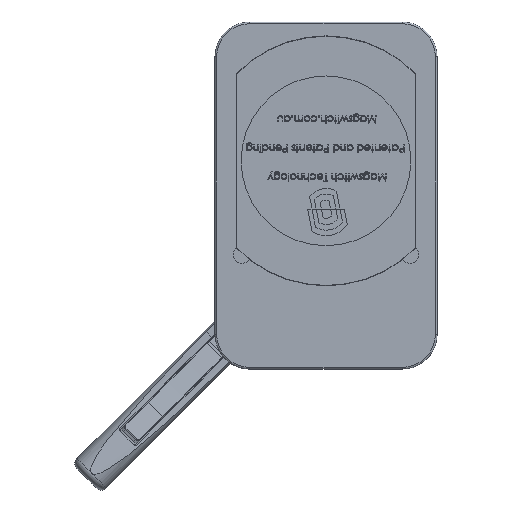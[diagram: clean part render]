
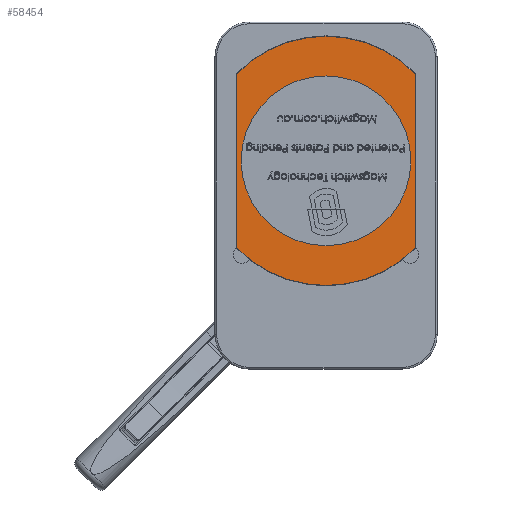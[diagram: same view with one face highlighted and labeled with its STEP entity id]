
A CAD part, front view. The second image highlights one B-rep face of the part: STEP entity #58454.
In plain terms, the highlighted planar face has unit normal (0, -1, 0).
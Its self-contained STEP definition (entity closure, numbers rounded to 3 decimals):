
#946 = ORIENTED_EDGE ( 'NONE', *, *, #59935, .F. ) ;
#1478 = VERTEX_POINT ( 'NONE', #47421 ) ;
#2303 = EDGE_CURVE ( 'NONE', #68336, #1478, #43632, .T. ) ;
#4584 = CARTESIAN_POINT ( 'NONE',  ( -3.034, -51.334, 12.012 ) ) ;
#4854 = CARTESIAN_POINT ( 'NONE',  ( -28.784, -51.334, 11.462 ) ) ;
#5964 = CIRCLE ( 'NONE', #64597, 35.9 ) ;
#6327 = EDGE_CURVE ( 'NONE', #15488, #1478, #44025, .T. ) ;
#9539 = AXIS2_PLACEMENT_3D ( 'NONE', #41495, #9554, #46894 ) ;
#9554 = DIRECTION ( 'NONE',  ( 0., -1., 0. ) ) ;
#13088 = CARTESIAN_POINT ( 'NONE',  ( -3.034, -51.334, 36.477 ) ) ;
#13696 = FACE_OUTER_BOUND ( 'NONE', #48938, .T. ) ;
#14051 = AXIS2_PLACEMENT_3D ( 'NONE', #21337, #58646, #26716 ) ;
#14410 = PLANE ( 'NONE',  #22666 ) ;
#15039 = DIRECTION ( 'NONE',  ( 0., -1., 0. ) ) ;
#15488 = VERTEX_POINT ( 'NONE', #4854 ) ;
#16770 = AXIS2_PLACEMENT_3D ( 'NONE', #57168, #25209, #62513 ) ;
#18240 = VERTEX_POINT ( 'NONE', #43964 ) ;
#18447 = DIRECTION ( 'NONE',  ( 0., 0., 1. ) ) ;
#18926 = ORIENTED_EDGE ( 'NONE', *, *, #57309, .T. ) ;
#20086 = ORIENTED_EDGE ( 'NONE', *, *, #26648, .F. ) ;
#21337 = CARTESIAN_POINT ( 'NONE',  ( -3.034, -51.334, 36.477 ) ) ;
#22666 = AXIS2_PLACEMENT_3D ( 'NONE', #25380, #62682, #30739 ) ;
#24222 = DIRECTION ( 'NONE',  ( 0., 0., 1. ) ) ;
#24607 = ORIENTED_EDGE ( 'NONE', *, *, #34635, .T. ) ;
#24887 = VERTEX_POINT ( 'NONE', #4584 ) ;
#25209 = DIRECTION ( 'NONE',  ( 0., -1., 0. ) ) ;
#25380 = CARTESIAN_POINT ( 'NONE',  ( -29.814, -51.334, 73.813 ) ) ;
#26648 = EDGE_CURVE ( 'NONE', #42599, #24887, #28676, .T. ) ;
#26716 = DIRECTION ( 'NONE',  ( 0., 0., 1. ) ) ;
#28676 = CIRCLE ( 'NONE', #9539, 24.465 ) ;
#29871 = VECTOR ( 'NONE', #24222, 1000. ) ;
#30739 = DIRECTION ( 'NONE',  ( 1., 0., 0. ) ) ;
#34357 = ORIENTED_EDGE ( 'NONE', *, *, #34832, .F. ) ;
#34635 = EDGE_CURVE ( 'NONE', #34659, #68336, #5964, .T. ) ;
#34659 = VERTEX_POINT ( 'NONE', #39880 ) ;
#34832 = EDGE_CURVE ( 'NONE', #24887, #42599, #38456, .T. ) ;
#35670 = CIRCLE ( 'NONE', #14051, 35.9 ) ;
#38456 = CIRCLE ( 'NONE', #16770, 24.465 ) ;
#39880 = CARTESIAN_POINT ( 'NONE',  ( 22.716, -51.334, 61.492 ) ) ;
#41495 = CARTESIAN_POINT ( 'NONE',  ( -3.034, -51.334, 36.477 ) ) ;
#42084 = FACE_BOUND ( 'NONE', #68596, .T. ) ;
#42599 = VERTEX_POINT ( 'NONE', #67734 ) ;
#43632 = CIRCLE ( 'NONE', #61073, 35.9 ) ;
#43964 = CARTESIAN_POINT ( 'NONE',  ( 22.716, -51.334, 11.462 ) ) ;
#44025 = LINE ( 'NONE', #45246, #29871 ) ;
#45246 = CARTESIAN_POINT ( 'NONE',  ( -28.784, -51.334, 36.477 ) ) ;
#46894 = DIRECTION ( 'NONE',  ( 0., 0., -1. ) ) ;
#47045 = CARTESIAN_POINT ( 'NONE',  ( -3.034, -51.334, 36.477 ) ) ;
#47421 = CARTESIAN_POINT ( 'NONE',  ( -28.784, -51.334, 61.492 ) ) ;
#48938 = EDGE_LOOP ( 'NONE', ( #946, #24607, #67714, #61192, #18926 ) ) ;
#50419 = DIRECTION ( 'NONE',  ( 0., -1., 0. ) ) ;
#50994 = VECTOR ( 'NONE', #66780, 1000. ) ;
#52382 = DIRECTION ( 'NONE',  ( 0., 0., 1. ) ) ;
#52653 = LINE ( 'NONE', #61409, #50994 ) ;
#57168 = CARTESIAN_POINT ( 'NONE',  ( -3.034, -51.334, 36.477 ) ) ;
#57309 = EDGE_CURVE ( 'NONE', #15488, #18240, #35670, .T. ) ;
#58454 = ADVANCED_FACE ( 'NONE', ( #13696, #42084 ), #14410, .F. ) ;
#58646 = DIRECTION ( 'NONE',  ( 0., -1., 0. ) ) ;
#59935 = EDGE_CURVE ( 'NONE', #34659, #18240, #52653, .T. ) ;
#61073 = AXIS2_PLACEMENT_3D ( 'NONE', #47045, #15039, #52382 ) ;
#61192 = ORIENTED_EDGE ( 'NONE', *, *, #6327, .F. ) ;
#61409 = CARTESIAN_POINT ( 'NONE',  ( 22.716, -51.334, 36.477 ) ) ;
#62513 = DIRECTION ( 'NONE',  ( 0., 0., -1. ) ) ;
#62682 = DIRECTION ( 'NONE',  ( 0., 1., 0. ) ) ;
#64597 = AXIS2_PLACEMENT_3D ( 'NONE', #13088, #50419, #18447 ) ;
#66780 = DIRECTION ( 'NONE',  ( 0., 0., -1. ) ) ;
#67714 = ORIENTED_EDGE ( 'NONE', *, *, #2303, .T. ) ;
#67734 = CARTESIAN_POINT ( 'NONE',  ( -3.034, -51.334, 60.942 ) ) ;
#68336 = VERTEX_POINT ( 'NONE', #68605 ) ;
#68596 = EDGE_LOOP ( 'NONE', ( #34357, #20086 ) ) ;
#68605 = CARTESIAN_POINT ( 'NONE',  ( -3.034, -51.334, 72.377 ) ) ;
